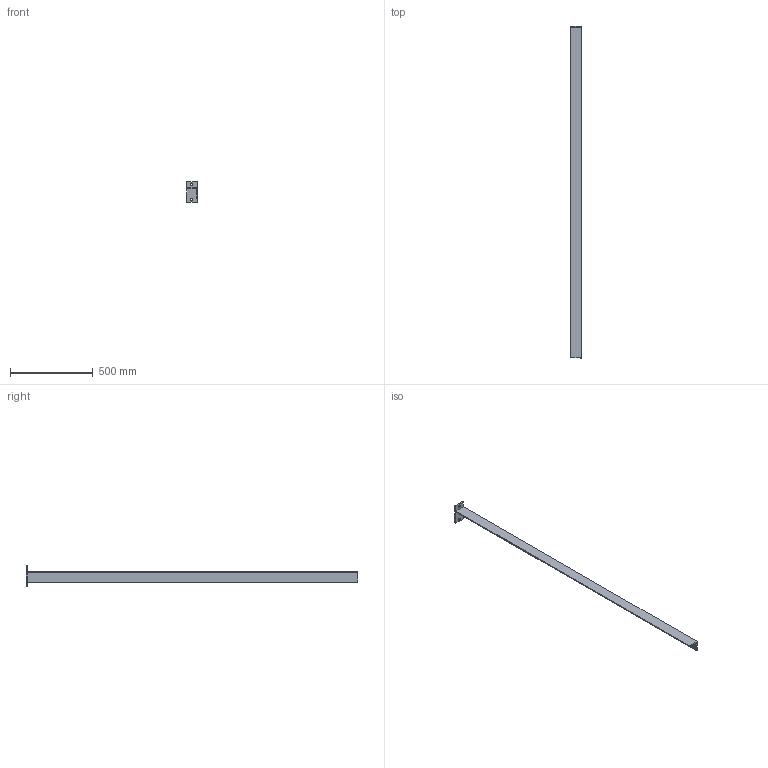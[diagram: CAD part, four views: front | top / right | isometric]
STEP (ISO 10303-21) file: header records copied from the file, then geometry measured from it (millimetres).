
FILE_DESCRIPTION(/* description */ (''),/* implementation_level */ '2;1');
FILE_NAME(/* name */ 'angle-65656t.step',/* time_stamp */ '2023-10-14T18:34:42+09:00',/* author */ (''),/* organization */ (''),/* preprocessor_version */ 'ST-DEVELOPER v20',/* originating_system */ 'Autodesk Translation Framework v12.14.0.127',/* authorisation */ '');
FILE_SCHEMA (('AUTOMOTIVE_DESIGN { 1 0 10303 214 3 1 1 }'));
Length unit declared in the file: millimetre
Products named in the file (1): angle-65*65*6t
Bounding box: 65 x 2009 x 125 mm (x, y, z)
Volume: 1558354.1 mm3; surface area: 541333.9 mm2
Topology: 2 solids, 2 shells, 16 faces, 36 edges, 24 vertices
Faces by surface type: plane 14, cylinder 2
Full cylindrical faces by diameter (mm): 14 x2
Entity records: 484 total; most frequent: CARTESIAN_POINT 77, DIRECTION 74, ORIENTED_EDGE 72, EDGE_CURVE 36, LINE 32, VECTOR 32, VERTEX_POINT 24, AXIS2_PLACEMENT_3D 21
